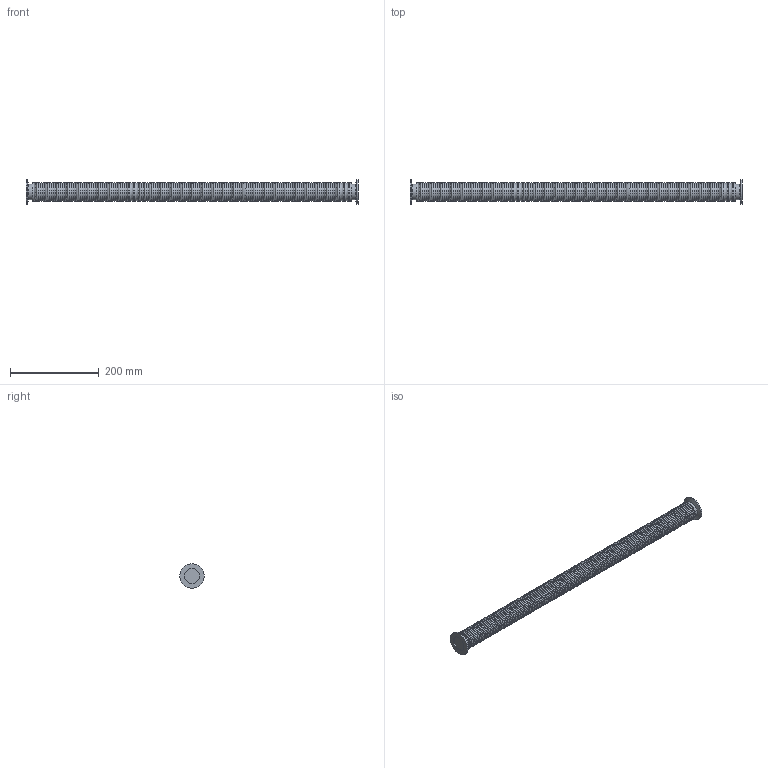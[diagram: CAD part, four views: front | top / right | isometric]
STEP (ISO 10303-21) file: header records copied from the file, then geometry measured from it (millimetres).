
FILE_DESCRIPTION( ( 'Unknown' ), '1' );
FILE_NAME( 'X:/Daten ( aktueller Bestand )/Projekte und Zeichnungen/Solid Edge/6 Verbindungsbauteile/Edelstahlschlauch/1935.stp', 'Unknown', ( 'Unknown' ), ( 'Unknown' ), 'XStep 1.0', 'Unknown', ' ' );
FILE_SCHEMA( ( 'automotive_design' ) );
Length unit declared in the file: millimetre
Products named in the file (1): 1
Bounding box: 750 x 55 x 55 mm (x, y, z)
Volume: 953150 mm3; surface area: 133656.6 mm2
Topology: 1 solids, 1 shells, 304 faces, 600 edges, 303 vertices
Faces by surface type: cylinder 151, torus 144, plane 7, cone 2
Full cylindrical faces by diameter (mm): 34.2 x2, 36 x2, 38.8 x143, 41.036 x2, 55 x2
Entity records: 8522 total; most frequent: DIRECTION 1216, CARTESIAN_POINT 911, AXIS2_PLACEMENT_3D 608, EDGE_LOOP 606, ORIENTED_EDGE 606, FACE_OUTER_BOUND 599, STYLED_ITEM 304, PRESENTATION_STYLE_ASSIGNMENT 304
